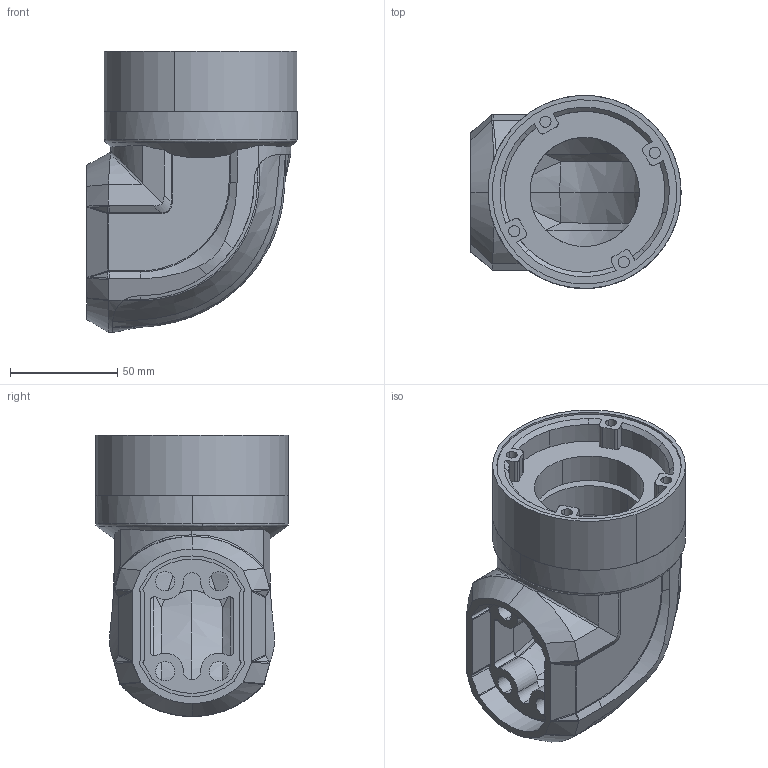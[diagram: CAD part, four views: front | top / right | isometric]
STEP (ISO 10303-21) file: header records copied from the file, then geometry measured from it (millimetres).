
FILE_DESCRIPTION (( 'STEP AP203' ), '1' );
FILE_NAME ('50-65-5050.STEP', '2019-10-03T05:25:06', ( 'User' ), ( 'Microsoft' ), 'SwSTEP 2.0', 'SolidWorks 2017', '' );
FILE_SCHEMA (( 'CONFIG_CONTROL_DESIGN' ));
Length unit declared in the file: millimetre
Products named in the file (4): 50-眊极蟀諉ん3; 50裔赽; 50-65-5050; 50-Х釴2
Assembly tree (3 placements, depth 2):
  50-65-5050
    50-Х釴2
    50-眊极蟀諉ん3
    50裔赽
Bounding box: 98 x 90 x 131.1 mm (x, y, z)
Volume: 118477.9 mm3; surface area: 94018.2 mm2
Topology: 2 solids, 4 shells, 432 faces, 1154 edges, 733 vertices
Faces by surface type: cylinder 170, bspline 122, plane 120, cone 16, torus 4
Entity records: 37595 total; most frequent: CARTESIAN_POINT 27605, ORIENTED_EDGE 2284, DIRECTION 1560, EDGE_CURVE 1144, VERTEX_POINT 733, AXIS2_PLACEMENT_3D 585, EDGE_LOOP 462, B_SPLINE_CURVE_WITH_KNOTS 457
